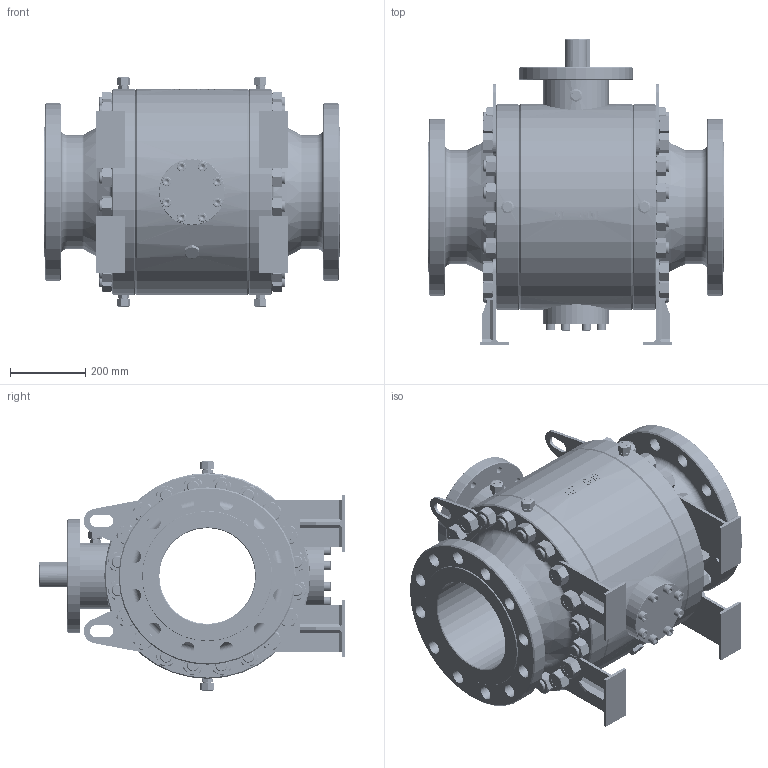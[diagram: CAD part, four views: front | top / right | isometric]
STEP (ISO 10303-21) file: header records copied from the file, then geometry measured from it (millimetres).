
FILE_DESCRIPTION (( 'STEP AP203' ), '1' );
FILE_NAME ('Fig.6060 DN-250 PN-63.STEP', '2017-04-19T16:08:14', ( 'admin' ), ( 'Hewlett-Packard Company' ), 'SwSTEP 2.0', 'SolidWorks 2016', '' );
FILE_SCHEMA (( 'CONFIG_CONTROL_DESIGN' ));
Length unit declared in the file: millimetre
Products named in the file (24): 6060TB250BAD_Predeterminado<Como mecanizada>; DIN 912 M16 x 110 _ 44_DIN 912 M16x1.5 x 70 --- 44N; 6060TB250EG; 6060TB250BAI_Predeterminado<Como mecanizada>; DIN 6325 - 14 x 60; 6060TB250SA; 6060TB250ARG; SUN1141454450; Engrasador 3_8 NPT-2; 6060TB250E; UN 1.1_4-8_HHNUT 0.8750-9-D-C; 161689CH; DIN 912 M4 x 16_EN ISO 4762 M4 x 16 - 16N; Engrasador 3_8 NPT-1; 6060TB250PP; Fig.6060 DN-250 PN-63; Engrasador 3_8 NPT; 6060TB250FSFF; 6060TB250C; Tapón purga 1 NPT; 6060TB250FI ; 6060TB250L63; DIN 912 M16 x 80 _ 44_DIN 912 M16x1.5 x 70 --- 44N; 6060TB250B
Assembly tree (126 placements, depth 3):
  Fig.6060 DN-250 PN-63
    6060TB250C
    6060TB250L63  x2
    6060TB250BAD_Predeterminado<Como mecanizada>  x2
    6060TB250BAI_Predeterminado<Como mecanizada>  x2
    6060TB250ARG  x4
    6060TB250E
    161689CH  x2
    6060TB250PP
    6060TB250FSFF
    6060TB250FI 
    6060TB250B
    6060TB250EG
    6060TB250SA  x2
    Engrasador 3_8 NPT  x5
      Engrasador 3_8 NPT-2
      Engrasador 3_8 NPT-1
    Tapón purga 1 NPT  x2
    DIN 912 M16 x 80 _ 44_DIN 912 M16x1.5 x 70 --- 44N  x8
    DIN 912 M16 x 110 _ 44_DIN 912 M16x1.5 x 70 --- 44N  x4
    DIN 6325 - 14 x 60  x2
    SUN1141454450  x40
    UN 1.1_4-8_HHNUT 0.8750-9-D-C  x40
    DIN 912 M4 x 16_EN ISO 4762 M4 x 16 - 16N  x2
Bounding box: 787 x 811.34 x 609 mm (x, y, z)
Volume: 98886048.2 mm3; surface area: 7170026.1 mm2
Topology: 153 solids, 153 shells, 3868 faces, 8602 edges, 5153 vertices
Faces by surface type: plane 1249, cylinder 1234, cone 1163, torus 167, bspline 45, sphere 10
Entity records: 50489 total; most frequent: CARTESIAN_POINT 12336, DIRECTION 7423, ORIENTED_EDGE 6298, EDGE_CURVE 3149, AXIS2_PLACEMENT_3D 3034, VERTEX_POINT 1973, EDGE_LOOP 1748, CIRCLE 1550
